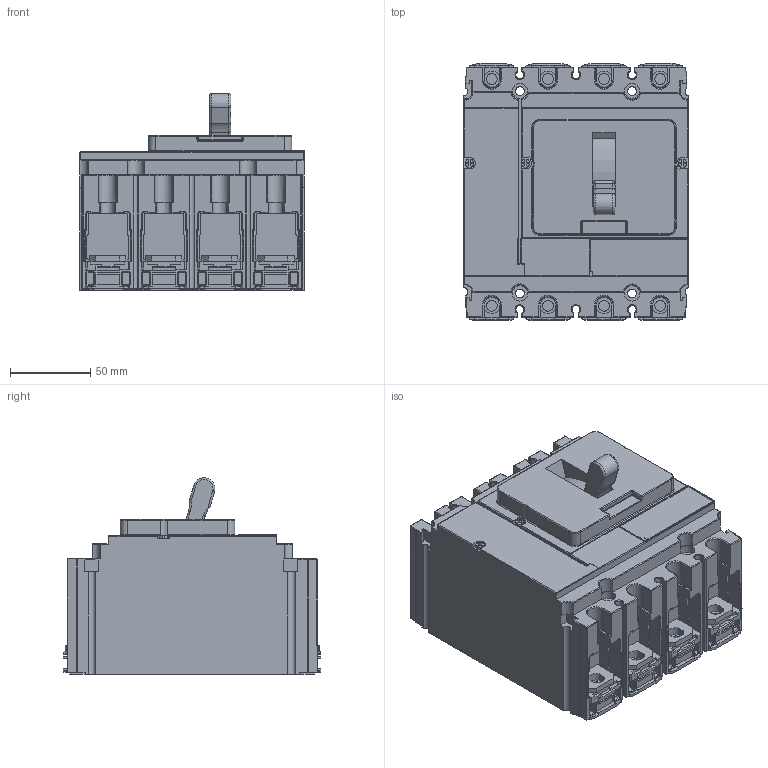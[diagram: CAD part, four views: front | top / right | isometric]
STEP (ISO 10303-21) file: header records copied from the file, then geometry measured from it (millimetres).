
FILE_DESCRIPTION((''),'2;1');
FILE_NAME('C25B47E250_3D_SIMLIFIED_ASM','2020-12-17T17:14:10',('USER'),('Schneider-Electric'),'CREO PARAMETRIC BY PTC INC, 2018300','CREO PARAMETRIC BY PTC INC, 2018300','');
FILE_SCHEMA(('CONFIG_CONTROL_DESIGN'));
Products named in the file (2): C25B47E250_3D-SIMLIFIED; C25B47E250_3D_SIMLIFIED_ASM
Assembly tree (1 placements, depth 2):
  C25B47E250_3D_SIMLIFIED_ASM
    C25B47E250_3D-SIMLIFIED
Bounding box: 140 x 160.6 x 122.52 mm (x, y, z)
Volume: 1698231.4 mm3; surface area: 145505.4 mm2
Topology: 1 solids, 1 shells, 1927 faces, 5164 edges, 3278 vertices
Faces by surface type: plane 1036, cylinder 641, torus 129, bspline 53, extrusion 39, sphere 29
Entity records: 64325 total; most frequent: CARTESIAN_POINT 16405, ORIENTED_EDGE 10286, DIRECTION 9623, EDGE_CURVE 5143, VECTOR 3477, LINE 3438, VERTEX_POINT 3278, AXIS2_PLACEMENT_3D 3073
